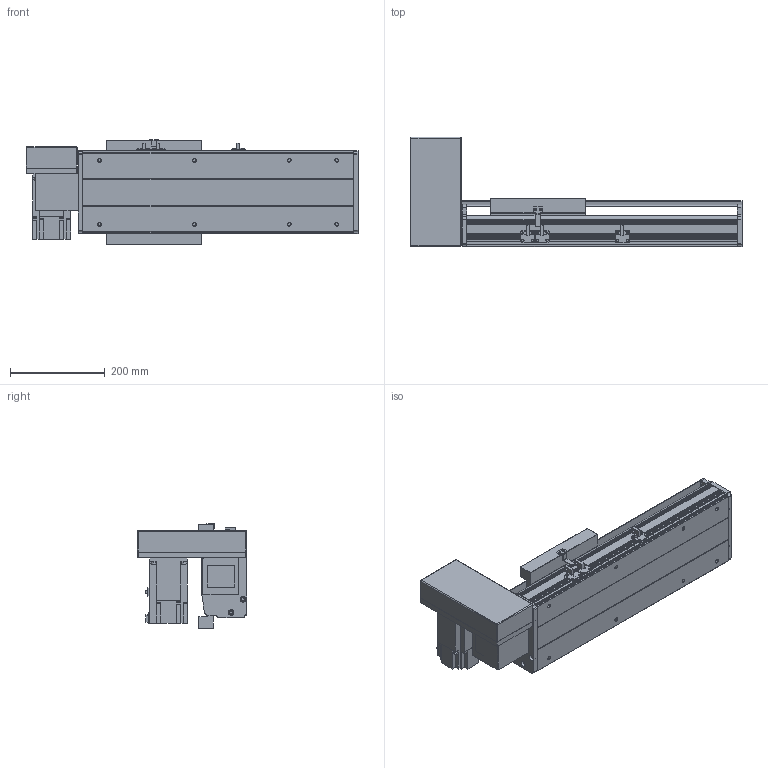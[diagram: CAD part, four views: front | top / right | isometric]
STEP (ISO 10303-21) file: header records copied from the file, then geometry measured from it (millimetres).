
FILE_DESCRIPTION(/* description */ ('STEP AP214'),/* implementation_level */ '2;1');
FILE_NAME(/* name */ 'PBS200-P40-S200-RU-T75-C1-N(0)',/* time_stamp */ '2022-06-11T09:33:57+02:00',/* author */ ('License CC BY-ND 4.0'),/* organization */ ('CADENAS'),/* preprocessor_version */ 'ST-DEVELOPER v18.102',/* originating_system */ 'PARTsolutions',/* authorisation */ ' ');
FILE_SCHEMA (('PROCESS_PLANNING_SCHEMA','AUTOMOTIVE_DESIGN {1 0 10303 214 3 1 1}'));
Length unit declared in the file: millimetre
Products named in the file (7): PBS200-P40-S200-RU-T75-C1-N(0); PBS200_sensor; PBS200_plant; PBS200_sliser; T75-p1; PBS200T-RU_motors; PBS200-S200()_body
Assembly tree (8 placements, depth 2):
  PBS200-P40-S200-RU-T75-C1-N(0)
    PBS200_sensor  x3
    PBS200_plant
    PBS200_sliser
    T75-p1
    PBS200T-RU_motors
    PBS200-S200()_body
Bounding box: 700 x 231 x 221 mm (x, y, z)
Volume: 6241595.4 mm3; surface area: 1032009.3 mm2
Topology: 8 solids, 8 shells, 896 faces, 2334 edges, 1524 vertices
Faces by surface type: plane 566, cylinder 290, cone 40
Full cylindrical faces by diameter (mm): 2.459 x6, 3.242 x4, 4.5 x6, 4.917 x4, 5 x6, 6 x7, 6.6 x8, 6.647 x12, 8 x6, 10 x4, 12 x8, 38 x2, 40 x1, 70 x1
Entity records: 24101 total; most frequent: DIRECTION 4231, CARTESIAN_POINT 4120, ORIENTED_EDGE 3934, EDGE_CURVE 1967, AXIS2_PLACEMENT_3D 1459, VERTEX_POINT 1348, LINE 1313, VECTOR 1313
